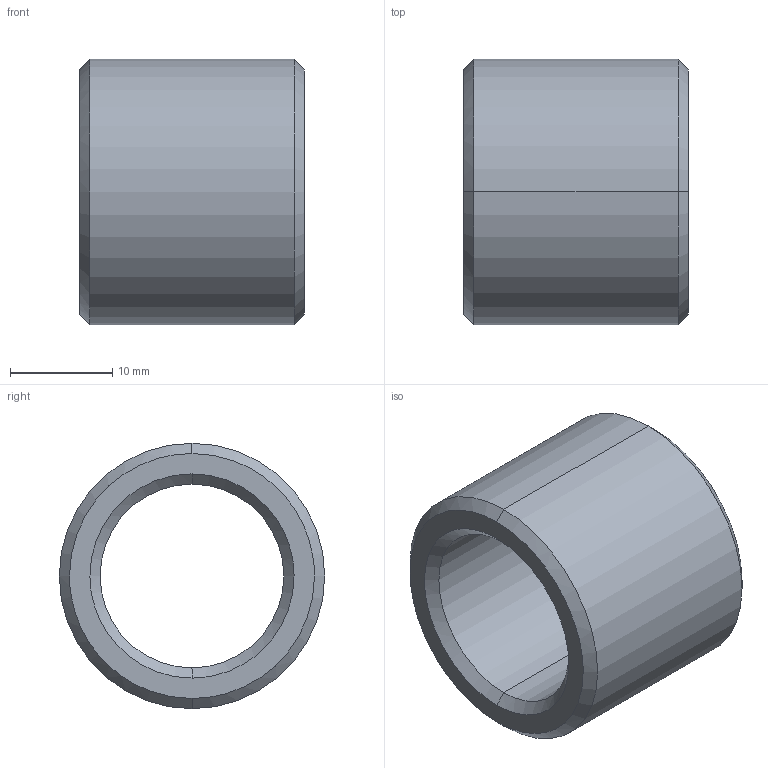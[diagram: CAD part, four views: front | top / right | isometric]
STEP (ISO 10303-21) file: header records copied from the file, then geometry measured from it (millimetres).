
FILE_DESCRIPTION(('CATIA V5 STEP Exchange'),'2;1');
FILE_NAME('C:\Users\Utente\Desktop\IO LAVORO\3D X SITO CF\X SITO\PLASTICA\352\352-18X22.stp','2021-04-12T15:42:36+00:00',('none'),('none'),'CATIA Version 5 Release 20 GA (IN-10)','CATIA V5 STEP AP203','none');
FILE_SCHEMA(('CONFIG_CONTROL_DESIGN'));
Length unit declared in the file: millimetre
Products named in the file (1): 352-18X22
Bounding box: 22 x 26 x 26 mm (x, y, z)
Volume: 5960.8 mm3; surface area: 3440 mm2
Topology: 1 solids, 1 shells, 14 faces, 44 edges, 32 vertices
Faces by surface type: cone 6, cylinder 4, plane 2, torus 2
Entity records: 634 total; most frequent: CARTESIAN_POINT 203, ORIENTED_EDGE 88, DIRECTION 64, EDGE_CURVE 44, AXIS2_PLACEMENT_3D 41, VERTEX_POINT 32, CIRCLE 26, EDGE_LOOP 16
